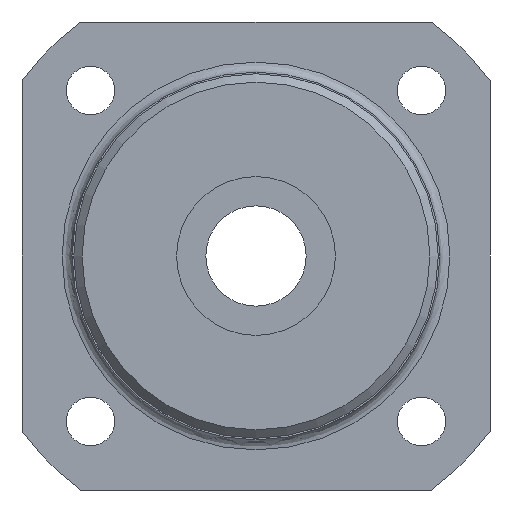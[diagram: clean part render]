
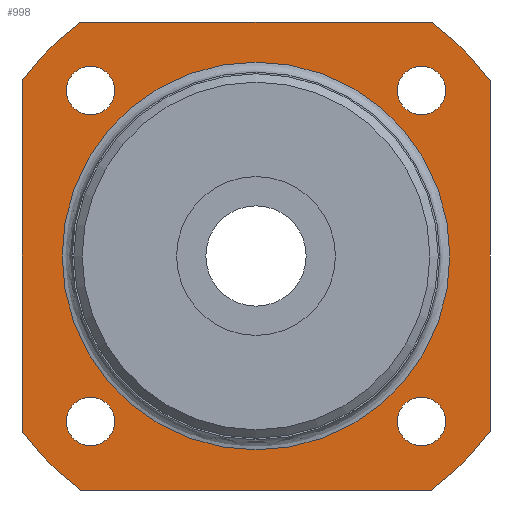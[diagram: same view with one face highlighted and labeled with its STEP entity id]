
A CAD part, left-side view. The second image highlights one B-rep face of the part: STEP entity #998.
In plain terms, the highlighted planar face has unit normal (-1, 0, 0).
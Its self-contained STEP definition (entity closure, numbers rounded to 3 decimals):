
#523=CARTESIAN_POINT('',(-7.,-11.349,-9.899));
#524=VERTEX_POINT('',#523);
#525=CARTESIAN_POINT('',(-7.,-9.899,-9.899));
#526=DIRECTION('',(1.0,0.0,0.0));
#527=DIRECTION('',(0.0,1.0,0.0));
#528=AXIS2_PLACEMENT_3D('',#525,#526,#527);
#529=CIRCLE('',#528,1.45);
#530=EDGE_CURVE('',#524,#524,#529,.T.);
#633=CARTESIAN_POINT('',(-7.,8.449,9.899));
#634=VERTEX_POINT('',#633);
#635=CARTESIAN_POINT('',(-7.,9.899,9.899));
#636=DIRECTION('',(1.0,0.0,0.0));
#637=DIRECTION('',(0.0,1.0,0.0));
#638=AXIS2_PLACEMENT_3D('',#635,#636,#637);
#639=CIRCLE('',#638,1.45);
#640=EDGE_CURVE('',#634,#634,#639,.T.);
#743=CARTESIAN_POINT('',(-7.,-11.349,9.899));
#744=VERTEX_POINT('',#743);
#745=CARTESIAN_POINT('',(-7.,-9.899,9.899));
#746=DIRECTION('',(1.0,0.0,0.0));
#747=DIRECTION('',(0.0,1.0,0.0));
#748=AXIS2_PLACEMENT_3D('',#745,#746,#747);
#749=CIRCLE('',#748,1.45);
#750=EDGE_CURVE('',#744,#744,#749,.T.);
#853=CARTESIAN_POINT('',(-7.,8.449,-9.899));
#854=VERTEX_POINT('',#853);
#855=CARTESIAN_POINT('',(-7.,9.899,-9.899));
#856=DIRECTION('',(1.0,0.0,0.0));
#857=DIRECTION('',(0.0,1.0,0.0));
#858=AXIS2_PLACEMENT_3D('',#855,#856,#857);
#859=CIRCLE('',#858,1.45);
#860=EDGE_CURVE('',#854,#854,#859,.T.);
#873=CARTESIAN_POINT('',(-7.,10.5,14.));
#874=VERTEX_POINT('',#873);
#892=CARTESIAN_POINT('',(-7.,14.,10.5));
#893=VERTEX_POINT('',#892);
#900=CARTESIAN_POINT('',(-7.,0.0,0.0));
#901=DIRECTION('',(1.0,0.0,0.0));
#902=DIRECTION('',(0.0,1.0,0.0));
#903=AXIS2_PLACEMENT_3D('',#900,#901,#902);
#904=CIRCLE('',#903,17.5);
#905=EDGE_CURVE('',#893,#874,#904,.T.);
#910=CARTESIAN_POINT('',(-7.,14.55,0.0));
#911=DIRECTION('',(-1.0,0.0,0.0));
#912=DIRECTION('',(0.0,0.0,1.0));
#913=AXIS2_PLACEMENT_3D('',#910,#911,#912);
#914=PLANE('',#913);
#915=CARTESIAN_POINT('',(-7.,-10.5,14.));
#916=VERTEX_POINT('',#915);
#917=CARTESIAN_POINT('',(-7.,-10.5,14.));
#918=DIRECTION('',(0.0,1.0,0.0));
#919=VECTOR('',#918,21.);
#920=LINE('',#917,#919);
#921=EDGE_CURVE('',#916,#874,#920,.T.);
#922=ORIENTED_EDGE('',*,*,#921,.T.);
#923=ORIENTED_EDGE('',*,*,#905,.F.);
#924=CARTESIAN_POINT('',(-7.,14.,-10.5));
#925=VERTEX_POINT('',#924);
#926=CARTESIAN_POINT('',(-7.,14.,10.5));
#927=DIRECTION('',(0.0,0.0,-1.0));
#928=VECTOR('',#927,21.);
#929=LINE('',#926,#928);
#930=EDGE_CURVE('',#893,#925,#929,.T.);
#931=ORIENTED_EDGE('',*,*,#930,.T.);
#932=CARTESIAN_POINT('',(-7.,10.5,-14.));
#933=VERTEX_POINT('',#932);
#934=CARTESIAN_POINT('',(-7.,0.0,0.0));
#935=DIRECTION('',(1.0,0.0,0.0));
#936=DIRECTION('',(0.0,1.0,0.0));
#937=AXIS2_PLACEMENT_3D('',#934,#935,#936);
#938=CIRCLE('',#937,17.5);
#939=EDGE_CURVE('',#933,#925,#938,.T.);
#940=ORIENTED_EDGE('',*,*,#939,.F.);
#941=CARTESIAN_POINT('',(-7.,-10.5,-14.));
#942=VERTEX_POINT('',#941);
#943=CARTESIAN_POINT('',(-7.,10.5,-14.));
#944=DIRECTION('',(0.0,-1.0,0.0));
#945=VECTOR('',#944,21.);
#946=LINE('',#943,#945);
#947=EDGE_CURVE('',#933,#942,#946,.T.);
#948=ORIENTED_EDGE('',*,*,#947,.T.);
#949=CARTESIAN_POINT('',(-7.,-14.,-10.5));
#950=VERTEX_POINT('',#949);
#951=CARTESIAN_POINT('',(-7.,0.0,0.0));
#952=DIRECTION('',(1.0,0.0,0.0));
#953=DIRECTION('',(0.0,1.0,0.0));
#954=AXIS2_PLACEMENT_3D('',#951,#952,#953);
#955=CIRCLE('',#954,17.5);
#956=EDGE_CURVE('',#950,#942,#955,.T.);
#957=ORIENTED_EDGE('',*,*,#956,.F.);
#958=CARTESIAN_POINT('',(-7.,-14.,10.5));
#959=VERTEX_POINT('',#958);
#960=CARTESIAN_POINT('',(-7.,-14.,-10.5));
#961=DIRECTION('',(0.0,0.0,1.0));
#962=VECTOR('',#961,21.);
#963=LINE('',#960,#962);
#964=EDGE_CURVE('',#950,#959,#963,.T.);
#965=ORIENTED_EDGE('',*,*,#964,.T.);
#966=CARTESIAN_POINT('',(-7.,0.0,0.0));
#967=DIRECTION('',(1.0,0.0,0.0));
#968=DIRECTION('',(0.0,1.0,0.0));
#969=AXIS2_PLACEMENT_3D('',#966,#967,#968);
#970=CIRCLE('',#969,17.5);
#971=EDGE_CURVE('',#916,#959,#970,.T.);
#972=ORIENTED_EDGE('',*,*,#971,.F.);
#973=EDGE_LOOP('',(#922,#923,#931,#940,#948,#957,#965,#972));
#974=FACE_OUTER_BOUND('',#973,.T.);
#975=ORIENTED_EDGE('',*,*,#530,.T.);
#976=EDGE_LOOP('',(#975));
#977=FACE_BOUND('',#976,.T.);
#978=ORIENTED_EDGE('',*,*,#640,.T.);
#979=EDGE_LOOP('',(#978));
#980=FACE_BOUND('',#979,.T.);
#981=ORIENTED_EDGE('',*,*,#750,.T.);
#982=EDGE_LOOP('',(#981));
#983=FACE_BOUND('',#982,.T.);
#984=ORIENTED_EDGE('',*,*,#860,.T.);
#985=EDGE_LOOP('',(#984));
#986=FACE_BOUND('',#985,.T.);
#987=CARTESIAN_POINT('',(-7.,11.6,0.0));
#988=VERTEX_POINT('',#987);
#989=CARTESIAN_POINT('',(-7.,0.0,0.0));
#990=DIRECTION('',(1.0,0.0,0.0));
#991=DIRECTION('',(0.0,1.0,0.0));
#992=AXIS2_PLACEMENT_3D('',#989,#990,#991);
#993=CIRCLE('',#992,11.6);
#994=EDGE_CURVE('',#988,#988,#993,.T.);
#995=ORIENTED_EDGE('',*,*,#994,.T.);
#996=EDGE_LOOP('',(#995));
#997=FACE_BOUND('',#996,.T.);
#998=ADVANCED_FACE('',(#974,#977,#980,#983,#986,#997),#914,.T.);
